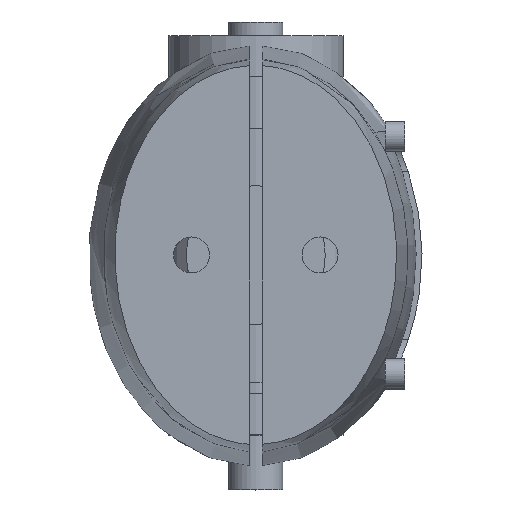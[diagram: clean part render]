
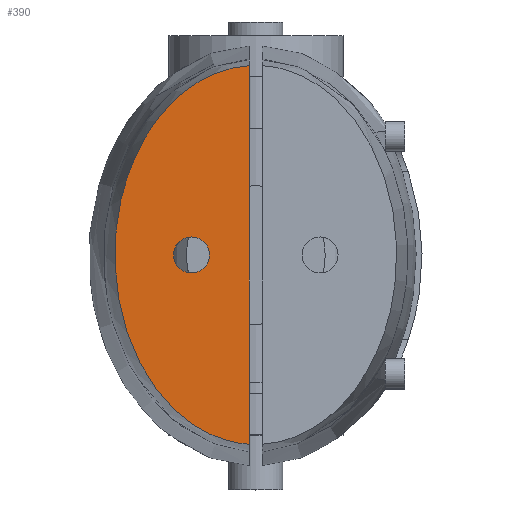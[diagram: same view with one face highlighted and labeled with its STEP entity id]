
A CAD part, top view. The second image highlights one B-rep face of the part: STEP entity #390.
In plain terms, the highlighted planar face has unit normal (0, 0, 1).
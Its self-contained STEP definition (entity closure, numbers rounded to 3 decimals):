
#86 = VERTEX_POINT('',#87);
#87 = CARTESIAN_POINT('',(-0.25,7.362,23.2));
#191 = VERTEX_POINT('',#192);
#192 = CARTESIAN_POINT('',(-0.25,-7.362,23.2));
#275 = EDGE_CURVE('',#86,#191,#276,.T.);
#276 = B_SPLINE_CURVE_WITH_KNOTS('',14,(#277,#278,#279,#280,#281,#282,
    #283,#284,#285,#286,#287,#288,#289,#290,#291),.UNSPECIFIED.,.T.,.F.,
  (15,15),(0.,1.),.PIECEWISE_BEZIER_KNOTS.);
#277 = CARTESIAN_POINT('',(0.,7.37,23.2));
#278 = CARTESIAN_POINT('',(-2.46,7.37,23.2));
#279 = CARTESIAN_POINT('',(-4.92,5.771,23.2));
#280 = CARTESIAN_POINT('',(-6.757,2.574,23.2));
#281 = CARTESIAN_POINT('',(-7.349,-1.744,23.2));
#282 = CARTESIAN_POINT('',(-6.298,-6.226,23.2));
#283 = CARTESIAN_POINT('',(-3.65,-9.648,23.2));
#284 = CARTESIAN_POINT('',(0.,-10.936,23.2));
#285 = CARTESIAN_POINT('',(3.65,-9.648,23.2));
#286 = CARTESIAN_POINT('',(6.298,-6.226,23.2));
#287 = CARTESIAN_POINT('',(7.349,-1.744,23.2));
#288 = CARTESIAN_POINT('',(6.757,2.574,23.2));
#289 = CARTESIAN_POINT('',(4.92,5.771,23.2));
#290 = CARTESIAN_POINT('',(2.46,7.37,23.2));
#291 = CARTESIAN_POINT('',(0.,7.37,23.2));
#379 = EDGE_CURVE('',#86,#191,#380,.T.);
#380 = LINE('',#381,#382);
#381 = CARTESIAN_POINT('',(-0.25,-13.815,23.2));
#382 = VECTOR('',#383,1.);
#383 = DIRECTION('',(0.,-1.,-0.));
#390 = ADVANCED_FACE('',(#391,#395),#406,.F.);
#391 = FACE_BOUND('',#392,.F.);
#392 = EDGE_LOOP('',(#393,#394));
#393 = ORIENTED_EDGE('',*,*,#275,.F.);
#394 = ORIENTED_EDGE('',*,*,#379,.T.);
#395 = FACE_BOUND('',#396,.F.);
#396 = EDGE_LOOP('',(#397));
#397 = ORIENTED_EDGE('',*,*,#398,.T.);
#398 = EDGE_CURVE('',#399,#399,#401,.T.);
#399 = VERTEX_POINT('',#400);
#400 = CARTESIAN_POINT('',(-1.8,0.,23.2));
#401 = CIRCLE('',#402,0.7);
#402 = AXIS2_PLACEMENT_3D('',#403,#404,#405);
#403 = CARTESIAN_POINT('',(-2.5,0.,23.2));
#404 = DIRECTION('',(0.,0.,1.));
#405 = DIRECTION('',(1.,0.,-0.));
#406 = PLANE('',#407);
#407 = AXIS2_PLACEMENT_3D('',#408,#409,#410);
#408 = CARTESIAN_POINT('',(0.,7.37,23.2));
#409 = DIRECTION('',(0.,0.,-1.));
#410 = DIRECTION('',(0.,-1.,0.));
